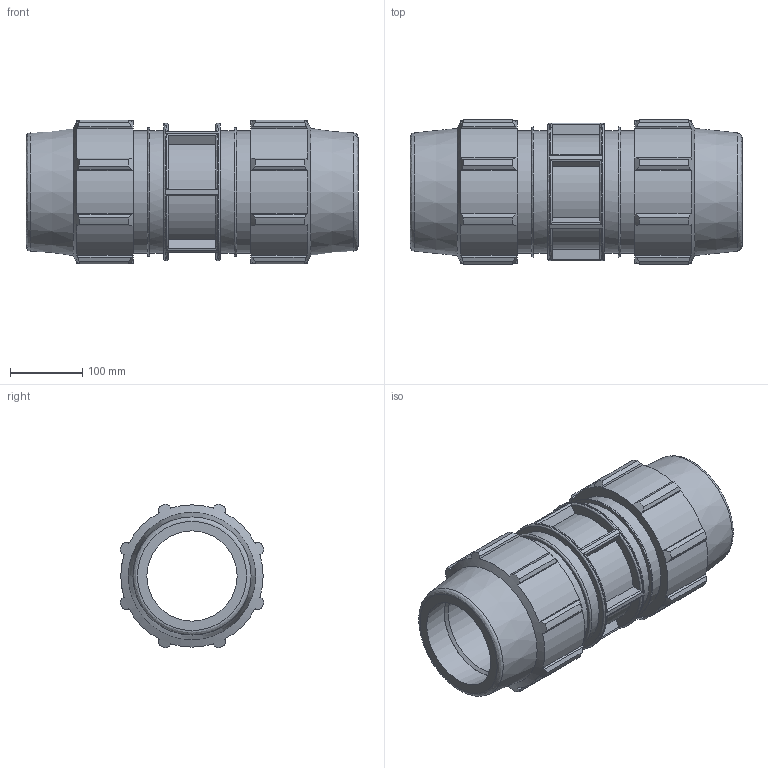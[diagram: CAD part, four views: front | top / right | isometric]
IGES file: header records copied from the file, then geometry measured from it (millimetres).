
Global section: file name: 076100125_186100125_0761061250A.ipt; native system: Autodesk Inventor 2015; preprocessor: unknown; author: KIM; date: 20170606.133425; units: millimetre
Bounding box: 460 x 199.48 x 199.48 mm (x, y, z)
Volume: 6067018.1 mm3; surface area: 542813.1 mm2
Topology: 1 solids, 1 shells, 198 faces, 551 edges, 370 vertices
Faces by surface type: plane 100, cylinder 55, revolution 23, cone 20
Full cylindrical faces by diameter (mm): 169.6 x4, 190.8 x1
